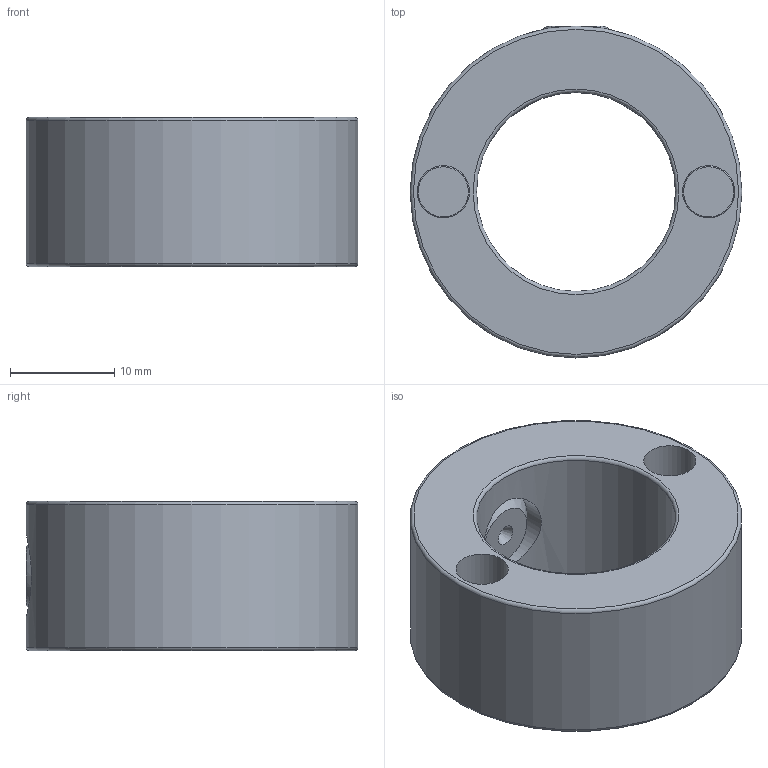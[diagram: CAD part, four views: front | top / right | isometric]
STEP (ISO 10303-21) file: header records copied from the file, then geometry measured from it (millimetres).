
FILE_DESCRIPTION(/* description */ (''),/* implementation_level */ '2;1');
FILE_NAME(/* name */ 'MAG-COL-3-4-CUST-ASSY.step',/* time_stamp */ '2025-10-02T13:49:22-05:00',/* author */ (''),/* organization */ (''),/* preprocessor_version */ 'ST-DEVELOPER v20.1',/* originating_system */ 'Autodesk Translation Framework v14.17.0.0',/* authorisation */ '');
FILE_SCHEMA (('AUTOMOTIVE_DESIGN { 1 0 10303 214 3 1 1 }'));
Length unit declared in the file: inch
Products named in the file (2): MAG-COL-3-4; CYL0159
Assembly tree (2 placements, depth 2):
  MAG-COL-3-4
    CYL0159  x2
Bounding box: 31.75 x 31.75 x 14.29 mm (x, y, z)
Volume: 6986.4 mm3; surface area: 4341.5 mm2
Topology: 4 solids, 4 shells, 34 faces, 71 edges, 46 vertices
Faces by surface type: plane 15, torus 8, cylinder 8, cone 3
Full cylindrical faces by diameter (mm): 5 x2, 5.004 x2, 7.938 x2, 19.05 x1, 31.75 x1
Entity records: 950 total; most frequent: CARTESIAN_POINT 206, DIRECTION 158, ORIENTED_EDGE 126, AXIS2_PLACEMENT_3D 65, EDGE_CURVE 63, VERTEX_POINT 42, EDGE_LOOP 39, CIRCLE 32
